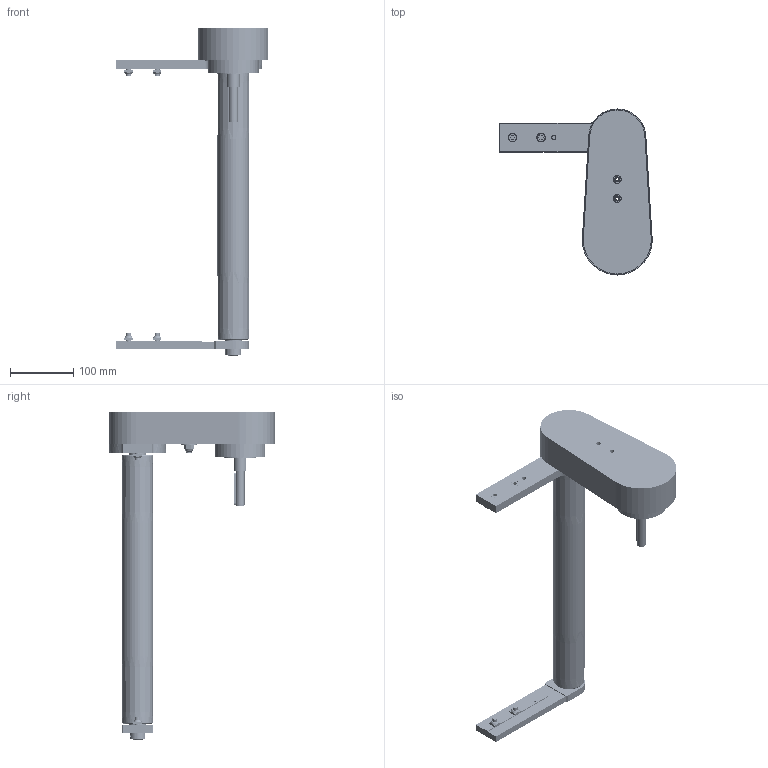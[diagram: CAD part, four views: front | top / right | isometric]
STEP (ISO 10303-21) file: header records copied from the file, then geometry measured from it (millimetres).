
FILE_DESCRIPTION (( 'STEP AP203' ), '1' );
FILE_NAME ('084.050.KTC.30.400.STEP', '2019-07-29T13:13:44', ( '' ), ( '' ), 'SwSTEP 2.0', 'SolidWorks 2018', '' );
FILE_SCHEMA (( 'CONFIG_CONTROL_DESIGN' ));
Length unit declared in the file: millimetre
Products named in the file (26): 084.802.034_084.802.034; 084.802.017_084.802.017; 084.811.004; DADI ESAGONALI AUTOBLOCCANTI UNI 7473 INOX_M8 UNI 7473 INOX; 084.807.002_084.807.002; 084.803.014; 084.810.004; 084.810.005; 084.815.117_Default<A macchina>; 084.813.006; 084.810.001; CUSCINETTI A SFERE_608-2RS; 084.810.010; 084.813.001; Circlip DIN 471 - 8 x 0.8_Circlip DIN 471 - 8 x 0.8; 084.301.000 VITI ALUSIC_084.301.003; 084.050.KTC.30.400; 084.809.004; 084.809.001; 084.802.021; 084.809.003; RONDELLE FASCIA LARGA UNI 6593_8.4x24 UNI 6593; CHIAVETTE_A 5x5x50 UNI 6604-69; 084.807.001_084.807.001; 084.803.012; 084.302.000 DADI ALUSIC 13x13_084.302.004
Assembly tree (34 placements, depth 3):
  084.050.KTC.30.400
    084.815.117_Default<A macchina>
    084.811.004
    084.813.001
    084.810.001  x2
    084.802.034_084.802.034
    084.802.017_084.802.017
    084.807.001_084.807.001
    084.807.002_084.807.002
    084.803.014  x2
    084.809.004
    084.813.006
    084.802.021
    084.803.012
    084.809.001
    084.809.003
    084.810.005
      084.810.010
      084.810.004
      CUSCINETTI A SFERE_608-2RS  x2
      Circlip DIN 471 - 8 x 0.8_Circlip DIN 471 - 8 x 0.8
      RONDELLE FASCIA LARGA UNI 6593_8.4x24 UNI 6593
      DADI ESAGONALI AUTOBLOCCANTI UNI 7473 INOX_M8 UNI 7473 INOX
    084.301.000 VITI ALUSIC_084.301.003  x4
    084.302.000 DADI ALUSIC 13x13_084.302.004  x4
    CHIAVETTE_A 5x5x50 UNI 6604-69
Bounding box: 240 x 261.5 x 516 mm (x, y, z)
Volume: 1029482.2 mm3; surface area: 580443.4 mm2
Topology: 63 solids, 64 shells, 2916 faces, 6878 edges, 4397 vertices
Faces by surface type: cylinder 1439, plane 732, bspline 468, cone 174, torus 94, sphere 9
Entity records: 83345 total; most frequent: CARTESIAN_POINT 18784, DIRECTION 14023, ORIENTED_EDGE 12154, EDGE_CURVE 6077, AXIS2_PLACEMENT_3D 5927, VERTEX_POINT 3874, CIRCLE 3743, EDGE_LOOP 3193
